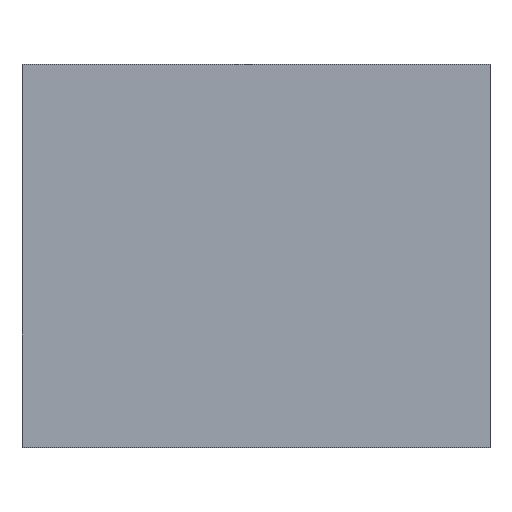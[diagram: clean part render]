
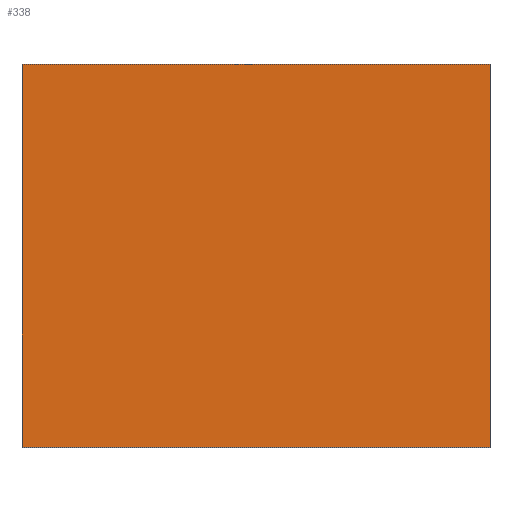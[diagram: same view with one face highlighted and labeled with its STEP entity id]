
A CAD part, top view. The second image highlights one B-rep face of the part: STEP entity #338.
In plain terms, the highlighted planar face has unit normal (0, 0, 1).
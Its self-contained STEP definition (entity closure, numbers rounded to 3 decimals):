
#24 = VERTEX_POINT('',#25);
#25 = CARTESIAN_POINT('',(-1.1,-0.9,1.));
#32 = PLANE('',#33);
#33 = AXIS2_PLACEMENT_3D('',#34,#35,#36);
#34 = CARTESIAN_POINT('',(-1.1,-0.9,0.));
#35 = DIRECTION('',(1.,0.,0.));
#36 = DIRECTION('',(0.,0.,1.));
#44 = PLANE('',#45);
#45 = AXIS2_PLACEMENT_3D('',#46,#47,#48);
#46 = CARTESIAN_POINT('',(-1.1,-0.9,0.));
#47 = DIRECTION('',(0.,1.,0.));
#48 = DIRECTION('',(0.,0.,1.));
#85 = VERTEX_POINT('',#86);
#86 = CARTESIAN_POINT('',(-1.1,0.9,1.));
#100 = PLANE('',#101);
#101 = AXIS2_PLACEMENT_3D('',#102,#103,#104);
#102 = CARTESIAN_POINT('',(-1.1,0.9,0.));
#103 = DIRECTION('',(0.,1.,0.));
#104 = DIRECTION('',(0.,0.,1.));
#112 = EDGE_CURVE('',#24,#85,#113,.T.);
#113 = SURFACE_CURVE('',#114,(#118,#125),.PCURVE_S1.);
#114 = LINE('',#115,#116);
#115 = CARTESIAN_POINT('',(-1.1,-0.9,1.));
#116 = VECTOR('',#117,1.);
#117 = DIRECTION('',(0.,1.,0.));
#118 = PCURVE('',#32,#119);
#119 = DEFINITIONAL_REPRESENTATION('',(#120),#124);
#120 = LINE('',#121,#122);
#121 = CARTESIAN_POINT('',(1.,0.));
#122 = VECTOR('',#123,1.);
#123 = DIRECTION('',(0.,-1.));
#124 = ( GEOMETRIC_REPRESENTATION_CONTEXT(2) 
PARAMETRIC_REPRESENTATION_CONTEXT() REPRESENTATION_CONTEXT('2D SPACE',''
  ) );
#125 = PCURVE('',#126,#131);
#126 = PLANE('',#127);
#127 = AXIS2_PLACEMENT_3D('',#128,#129,#130);
#128 = CARTESIAN_POINT('',(-1.1,-0.9,1.));
#129 = DIRECTION('',(0.,0.,1.));
#130 = DIRECTION('',(1.,0.,0.));
#131 = DEFINITIONAL_REPRESENTATION('',(#132),#136);
#132 = LINE('',#133,#134);
#133 = CARTESIAN_POINT('',(0.,0.));
#134 = VECTOR('',#135,1.);
#135 = DIRECTION('',(0.,1.));
#136 = ( GEOMETRIC_REPRESENTATION_CONTEXT(2) 
PARAMETRIC_REPRESENTATION_CONTEXT() REPRESENTATION_CONTEXT('2D SPACE',''
  ) );
#144 = VERTEX_POINT('',#145);
#145 = CARTESIAN_POINT('',(1.1,-0.9,1.));
#152 = PLANE('',#153);
#153 = AXIS2_PLACEMENT_3D('',#154,#155,#156);
#154 = CARTESIAN_POINT('',(1.1,-0.9,0.));
#155 = DIRECTION('',(1.,0.,0.));
#156 = DIRECTION('',(0.,0.,1.));
#195 = VERTEX_POINT('',#196);
#196 = CARTESIAN_POINT('',(1.1,0.9,1.));
#217 = EDGE_CURVE('',#144,#195,#218,.T.);
#218 = SURFACE_CURVE('',#219,(#223,#230),.PCURVE_S1.);
#219 = LINE('',#220,#221);
#220 = CARTESIAN_POINT('',(1.1,-0.9,1.));
#221 = VECTOR('',#222,1.);
#222 = DIRECTION('',(0.,1.,0.));
#223 = PCURVE('',#152,#224);
#224 = DEFINITIONAL_REPRESENTATION('',(#225),#229);
#225 = LINE('',#226,#227);
#226 = CARTESIAN_POINT('',(1.,0.));
#227 = VECTOR('',#228,1.);
#228 = DIRECTION('',(0.,-1.));
#229 = ( GEOMETRIC_REPRESENTATION_CONTEXT(2) 
PARAMETRIC_REPRESENTATION_CONTEXT() REPRESENTATION_CONTEXT('2D SPACE',''
  ) );
#230 = PCURVE('',#126,#231);
#231 = DEFINITIONAL_REPRESENTATION('',(#232),#236);
#232 = LINE('',#233,#234);
#233 = CARTESIAN_POINT('',(2.2,0.));
#234 = VECTOR('',#235,1.);
#235 = DIRECTION('',(0.,1.));
#236 = ( GEOMETRIC_REPRESENTATION_CONTEXT(2) 
PARAMETRIC_REPRESENTATION_CONTEXT() REPRESENTATION_CONTEXT('2D SPACE',''
  ) );
#263 = EDGE_CURVE('',#24,#144,#264,.T.);
#264 = SURFACE_CURVE('',#265,(#269,#276),.PCURVE_S1.);
#265 = LINE('',#266,#267);
#266 = CARTESIAN_POINT('',(-1.1,-0.9,1.));
#267 = VECTOR('',#268,1.);
#268 = DIRECTION('',(1.,0.,0.));
#269 = PCURVE('',#44,#270);
#270 = DEFINITIONAL_REPRESENTATION('',(#271),#275);
#271 = LINE('',#272,#273);
#272 = CARTESIAN_POINT('',(1.,0.));
#273 = VECTOR('',#274,1.);
#274 = DIRECTION('',(0.,1.));
#275 = ( GEOMETRIC_REPRESENTATION_CONTEXT(2) 
PARAMETRIC_REPRESENTATION_CONTEXT() REPRESENTATION_CONTEXT('2D SPACE',''
  ) );
#276 = PCURVE('',#126,#277);
#277 = DEFINITIONAL_REPRESENTATION('',(#278),#282);
#278 = LINE('',#279,#280);
#279 = CARTESIAN_POINT('',(0.,0.));
#280 = VECTOR('',#281,1.);
#281 = DIRECTION('',(1.,0.));
#282 = ( GEOMETRIC_REPRESENTATION_CONTEXT(2) 
PARAMETRIC_REPRESENTATION_CONTEXT() REPRESENTATION_CONTEXT('2D SPACE',''
  ) );
#310 = EDGE_CURVE('',#85,#195,#311,.T.);
#311 = SURFACE_CURVE('',#312,(#316,#323),.PCURVE_S1.);
#312 = LINE('',#313,#314);
#313 = CARTESIAN_POINT('',(-1.1,0.9,1.));
#314 = VECTOR('',#315,1.);
#315 = DIRECTION('',(1.,0.,0.));
#316 = PCURVE('',#100,#317);
#317 = DEFINITIONAL_REPRESENTATION('',(#318),#322);
#318 = LINE('',#319,#320);
#319 = CARTESIAN_POINT('',(1.,0.));
#320 = VECTOR('',#321,1.);
#321 = DIRECTION('',(0.,1.));
#322 = ( GEOMETRIC_REPRESENTATION_CONTEXT(2) 
PARAMETRIC_REPRESENTATION_CONTEXT() REPRESENTATION_CONTEXT('2D SPACE',''
  ) );
#323 = PCURVE('',#126,#324);
#324 = DEFINITIONAL_REPRESENTATION('',(#325),#329);
#325 = LINE('',#326,#327);
#326 = CARTESIAN_POINT('',(0.,1.8));
#327 = VECTOR('',#328,1.);
#328 = DIRECTION('',(1.,0.));
#329 = ( GEOMETRIC_REPRESENTATION_CONTEXT(2) 
PARAMETRIC_REPRESENTATION_CONTEXT() REPRESENTATION_CONTEXT('2D SPACE',''
  ) );
#338 = ADVANCED_FACE('',(#339),#126,.T.);
#339 = FACE_BOUND('',#340,.T.);
#340 = EDGE_LOOP('',(#341,#342,#343,#344));
#341 = ORIENTED_EDGE('',*,*,#112,.F.);
#342 = ORIENTED_EDGE('',*,*,#263,.T.);
#343 = ORIENTED_EDGE('',*,*,#217,.T.);
#344 = ORIENTED_EDGE('',*,*,#310,.F.);
